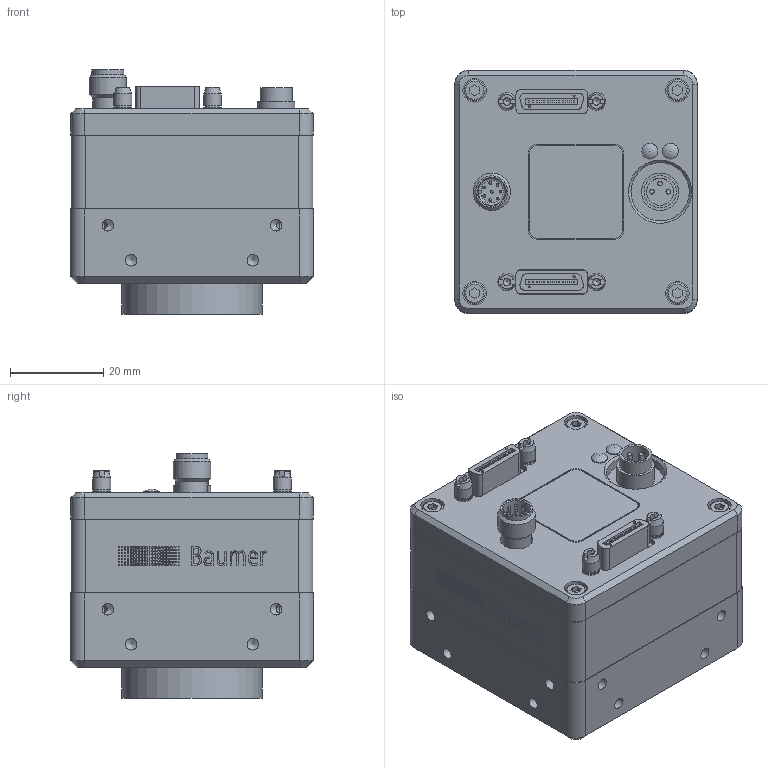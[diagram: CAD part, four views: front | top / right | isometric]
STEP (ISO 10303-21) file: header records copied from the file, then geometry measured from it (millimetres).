
FILE_DESCRIPTION( ( 'Unknown' ), '1' );
FILE_NAME( 'M:/Solid Edge/11040000/11047481 HXC40 110628.stp', 'Unknown', ( 'Unknown' ), ( 'Unknown' ), 'PSStep 13.0', 'Unknown', ' ' );
FILE_SCHEMA( ( 'AUTOMOTIVE_DESIGN { 1 0 10303 214 1 1 1 1 }' ) );
Length unit declared in the file: millimetre
Products named in the file (1): 11046323
Bounding box: 52 x 52 x 52.26 mm (x, y, z)
Volume: 97129.5 mm3; surface area: 20616.7 mm2
Topology: 1 solids, 25 shells, 1712 faces, 4086 edges, 2729 vertices
Faces by surface type: plane 961, cylinder 583, cone 76, extrusion 52, bspline 24, torus 14, sphere 2
Full cylindrical faces by diameter (mm): 0.223 x20, 0.28 x20, 0.337 x20, 0.394 x20, 0.451 x20, 0.5 x2, 0.509 x20, 0.566 x20, 0.6 x8, 0.623 x20, 1 x3, 1.5 x2, 1.567 x4, 2 x6, 2.013 x4, 2.2 x6, 2.459 x24, 2.5 x4, 2.7 x4, 2.8 x2, 2.92 x2, 3.2 x24, 3.3 x4, 3.4 x2, 3.5 x2, 3.8 x10, 4.5 x4, 4.793 x2, 4.95 x4, 5 x12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
Entity records: 68359 total; most frequent: CARTESIAN_POINT 17558, DIRECTION 7759, ORIENTED_EDGE 6842, EDGE_CURVE 3421, AXIS2_PLACEMENT_3D 2857, VERTEX_POINT 2482, EDGE_LOOP 2456, VECTOR 2045
